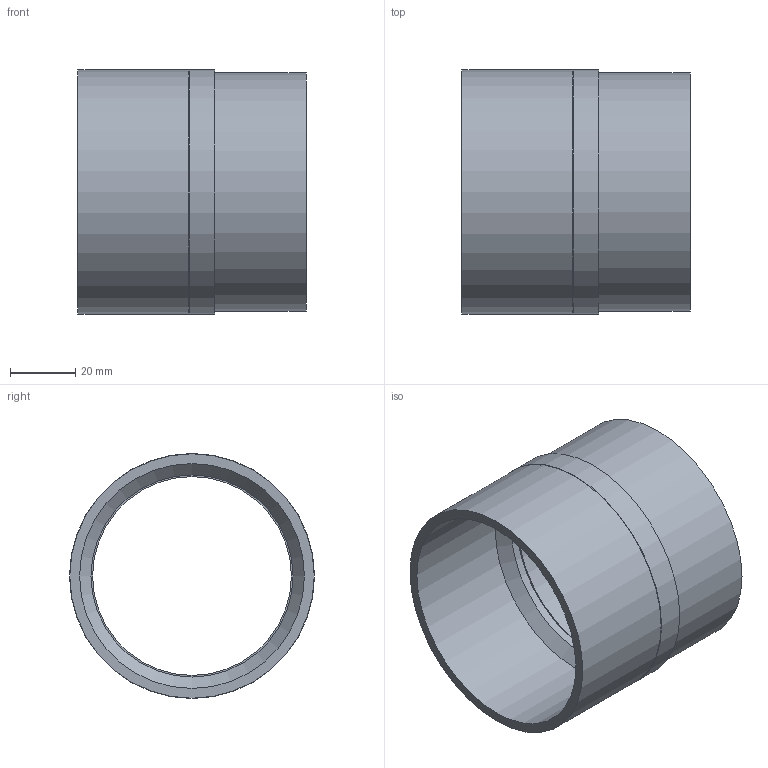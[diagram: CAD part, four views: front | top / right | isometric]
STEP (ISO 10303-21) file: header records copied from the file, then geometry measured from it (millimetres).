
FILE_DESCRIPTION(/* description */ (''),/* implementation_level */ '2;1');
FILE_NAME(/* name */ 'Z:\Geberit\Export\NewStep\365729.stp',/* time_stamp */ '2014-04-02T07:35:05+02:00',/* author */ ('nelson'),/* organization */ (''),/* preprocessor_version */ 'ST-DEVELOPER v15.2',/* originating_system */ 'Autodesk Inventor 2014',/* authorisation */ '');
FILE_SCHEMA (('AUTOMOTIVE_DESIGN { 1 0 10303 214 3 1 1 }'));
Length unit declared in the file: millimetre
Products named in the file (1): 365729
Bounding box: 70 x 75.18 x 75.18 mm (x, y, z)
Volume: 68730.8 mm3; surface area: 45274.3 mm2
Topology: 1 solids, 1 shells, 17 faces, 28 edges, 17 vertices
Faces by surface type: cylinder 8, plane 6, cone 3
Full cylindrical faces by diameter (mm): 61 x1, 62 x1, 63.8 x1, 64 x1, 69 x1, 73.184 x1, 75 x1, 75.184 x1
Entity records: 381 total; most frequent: DIRECTION 70, CARTESIAN_POINT 52, AXIS2_PLACEMENT_3D 35, EDGE_LOOP 34, ORIENTED_EDGE 34, FACE_BOUND 20, CIRCLE 17, VERTEX_POINT 17
